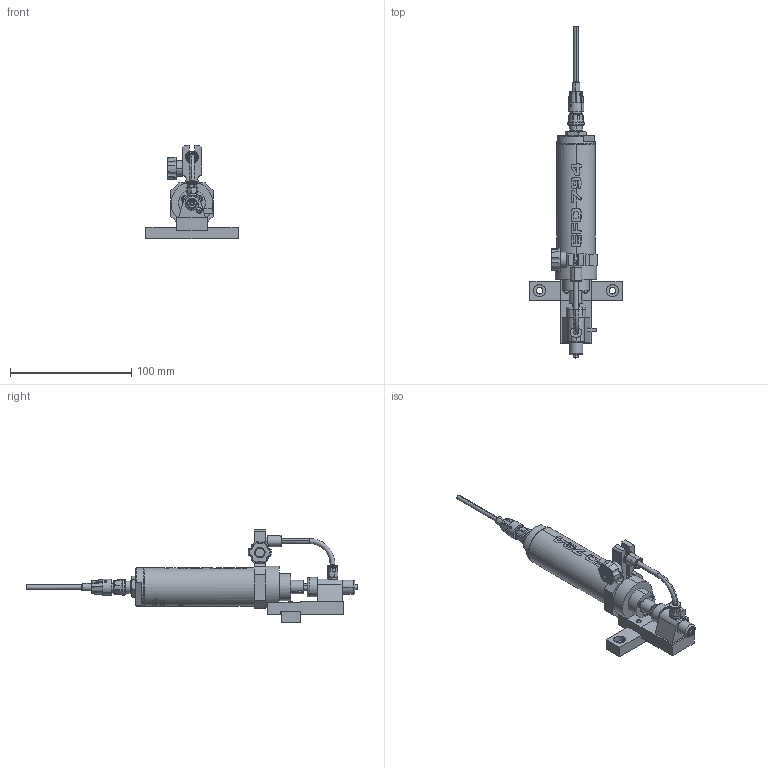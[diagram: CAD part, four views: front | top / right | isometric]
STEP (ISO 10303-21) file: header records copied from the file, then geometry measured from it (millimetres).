
FILE_DESCRIPTION(('FreeCAD Model'),'2;1');
FILE_NAME('C:/Users/martin.stroffek/Desktop/augers/NORDSONEFD-7029742 AUGER VALVE FIX HD BRUSHLESS.STEP','2019-09-24T18:17:59',('Author'),(''), 'Open CASCADE STEP processor 7.2','FreeCAD','Unknown');
FILE_SCHEMA(('AUTOMOTIVE_DESIGN { 1 0 10303 214 1 1 1 1 }'));
Products named in the file (1): NORDSONEFD-7029742_AUGER_VALVE_FIX_HD_BRUSHLESS
Bounding box: 76.2 x 273.92 x 76.85 mm (x, y, z)
Volume: 143856 mm3; surface area: 44859.9 mm2
Topology: 1 solids, 1 shells, 1807 faces, 4709 edges, 3014 vertices
Faces by surface type: plane 660, cylinder 478, bspline 384, cone 174, torus 88, sphere 21, revolution 2
Entity records: 237109 total; most frequent: CARTESIAN_POINT 138091, DIRECTION 13887, ORIENTED_EDGE 9378, PCURVE 9378, DEFINITIONAL_REPRESENTATION 9378, LINE 7544, VECTOR 7544, EDGE_CURVE 4689
